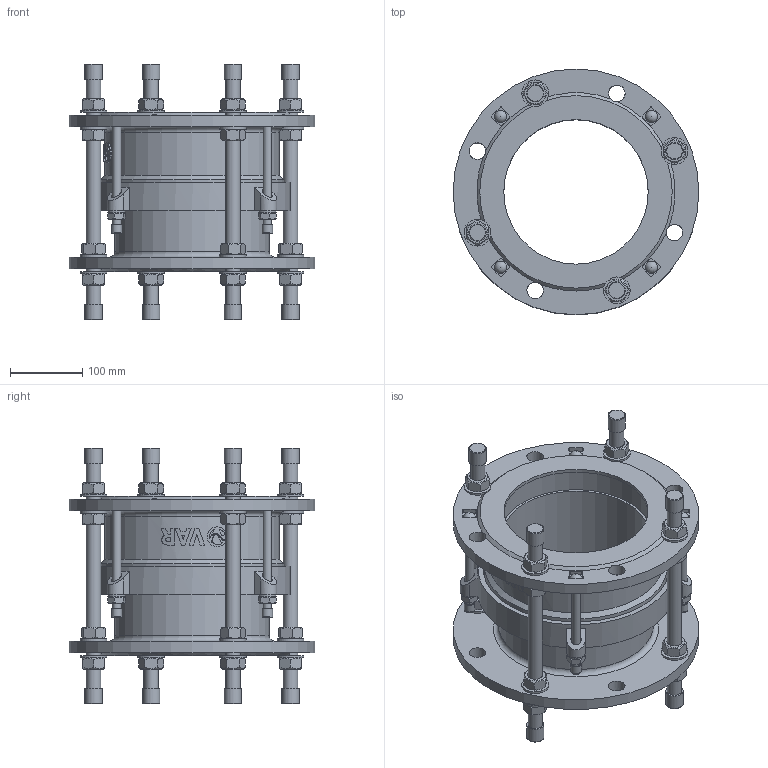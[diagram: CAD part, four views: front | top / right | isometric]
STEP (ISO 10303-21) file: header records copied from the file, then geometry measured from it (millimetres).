
FILE_DESCRIPTION(('STEP AP242'), '1');
FILE_NAME('Ìîíòàæíàÿ âñòàâêà', '', ('UNSPECIFIED'), ('UNSPECIFIED'), 'C3D Converter', 'C3D Toolkit', '');
FILE_SCHEMA(('AP242_MANAGED_MODEL_BASED_3D_ENGINEERING_MIM_LF { 1 0 10303 442 1 1 4 }'));
Length unit declared in the file: millimetre
Products named in the file (13): ШМ.М16.310
Assembly tree (64 placements, depth 2):
  (unnamed)
    (unnamed)
    (unnamed)
    (unnamed)
    (unnamed)  x16
    (unnamed)  x16
    ШМ.М16.310  x4
    (unnamed)  x8
    (unnamed)
    (unnamed)  x4
    (unnamed)  x4
    (unnamed)  x4
    (unnamed)  x4
Bounding box: 340 x 340 x 354 mm (x, y, z)
Volume: 4733005.3 mm3; surface area: 1077133.8 mm2
Topology: 64 solids, 64 shells, 668 faces, 1466 edges, 936 vertices
Faces by surface type: plane 385, cylinder 155, cone 99, torus 14, extrusion 11, sphere 4
Full cylindrical faces by diameter (mm): 12 x12, 13 x4, 14 x4, 14.4 x4, 20 x28, 21 x16, 23 x16, 24 x12, 27.455 x1, 37 x16, 200 x2, 214 x2, 221 x2, 242 x1, 249 x1, 254 x1, 258 x1, 272 x1, 340 x2
Entity records: 15631 total; most frequent: CARTESIAN_POINT 7627, DIRECTION 1256, ORIENTED_EDGE 1092, EDGE_CURVE 546, AXIS2_PLACEMENT_3D 515, VERTEX_POINT 399, EDGE_LOOP 377, FACE_BOUND 271
